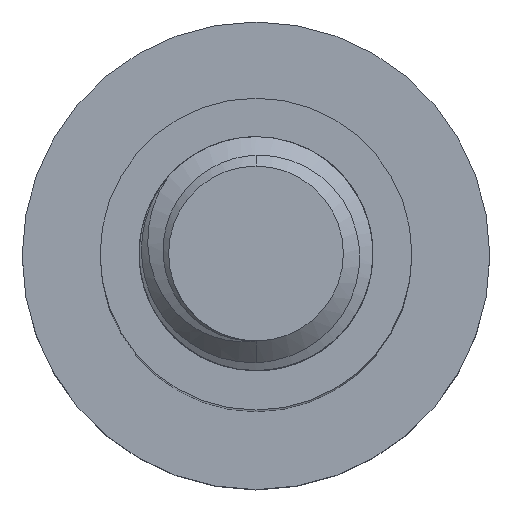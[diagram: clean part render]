
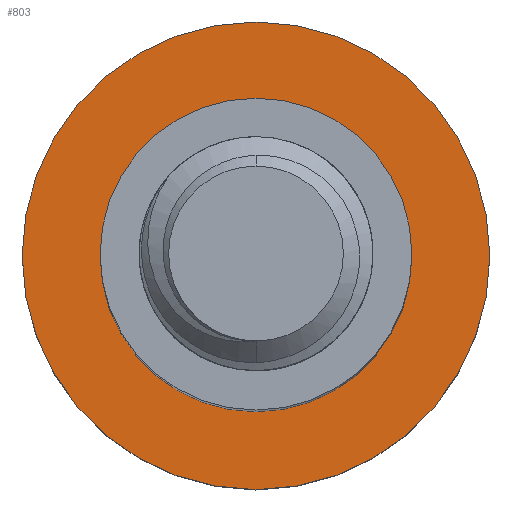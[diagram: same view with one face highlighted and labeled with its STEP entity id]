
A CAD part, top view. The second image highlights one B-rep face of the part: STEP entity #803.
In plain terms, the highlighted planar face has unit normal (0, 0, 1).
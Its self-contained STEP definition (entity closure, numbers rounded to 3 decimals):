
#111 = CARTESIAN_POINT ( 'NONE',  ( 0., 0., -50. ) ) ;
#197 = VERTEX_POINT ( 'NONE', #2546 ) ;
#214 = EDGE_LOOP ( 'NONE', ( #4832, #4511 ) ) ;
#353 = FACE_OUTER_BOUND ( 'NONE', #214, .T. ) ;
#444 = CARTESIAN_POINT ( 'NONE',  ( -8., 0., -50. ) ) ;
#803 = ADVANCED_FACE ( 'NONE', ( #1615, #353 ), #4802, .F. ) ;
#830 = DIRECTION ( 'NONE',  ( 0., 0., -1. ) ) ;
#876 = DIRECTION ( 'NONE',  ( -1., 0., 0. ) ) ;
#889 = AXIS2_PLACEMENT_3D ( 'NONE', #3643, #4753, #2006 ) ;
#1537 = EDGE_CURVE ( 'NONE', #2658, #3770, #4904, .T. ) ;
#1573 = AXIS2_PLACEMENT_3D ( 'NONE', #111, #2607, #2515 ) ;
#1615 = FACE_BOUND ( 'NONE', #4776, .T. ) ;
#2006 = DIRECTION ( 'NONE',  ( -1., 0., 0. ) ) ;
#2471 = CARTESIAN_POINT ( 'NONE',  ( 0., 0., -50. ) ) ;
#2477 = ORIENTED_EDGE ( 'NONE', *, *, #1537, .T. ) ;
#2489 = CIRCLE ( 'NONE', #1573, 8. ) ;
#2515 = DIRECTION ( 'NONE',  ( -1., 0., 0. ) ) ;
#2546 = CARTESIAN_POINT ( 'NONE',  ( 12., 0., -50. ) ) ;
#2607 = DIRECTION ( 'NONE',  ( 0., 0., -1. ) ) ;
#2651 = CIRCLE ( 'NONE', #3477, 12. ) ;
#2658 = VERTEX_POINT ( 'NONE', #3375 ) ;
#2686 = DIRECTION ( 'NONE',  ( -1., 0., 0. ) ) ;
#2784 = VERTEX_POINT ( 'NONE', #3741 ) ;
#2849 = CARTESIAN_POINT ( 'NONE',  ( 0., 0., -50. ) ) ;
#3306 = CIRCLE ( 'NONE', #3984, 12. ) ;
#3375 = CARTESIAN_POINT ( 'NONE',  ( 8., 0., -50. ) ) ;
#3477 = AXIS2_PLACEMENT_3D ( 'NONE', #2849, #4459, #3663 ) ;
#3643 = CARTESIAN_POINT ( 'NONE',  ( 0., 0., -50. ) ) ;
#3663 = DIRECTION ( 'NONE',  ( -1., 0., 0. ) ) ;
#3741 = CARTESIAN_POINT ( 'NONE',  ( -12., 0., -50. ) ) ;
#3770 = VERTEX_POINT ( 'NONE', #444 ) ;
#3803 = CARTESIAN_POINT ( 'NONE',  ( 0., 0., -50. ) ) ;
#3832 = DIRECTION ( 'NONE',  ( 0., 0., -1. ) ) ;
#3833 = ORIENTED_EDGE ( 'NONE', *, *, #4896, .T. ) ;
#3984 = AXIS2_PLACEMENT_3D ( 'NONE', #3803, #3832, #2686 ) ;
#4057 = AXIS2_PLACEMENT_3D ( 'NONE', #2471, #830, #876 ) ;
#4459 = DIRECTION ( 'NONE',  ( 0., 0., -1. ) ) ;
#4511 = ORIENTED_EDGE ( 'NONE', *, *, #4704, .F. ) ;
#4704 = EDGE_CURVE ( 'NONE', #2784, #197, #2651, .T. ) ;
#4753 = DIRECTION ( 'NONE',  ( 0., 0., -1. ) ) ;
#4776 = EDGE_LOOP ( 'NONE', ( #3833, #2477 ) ) ;
#4802 = PLANE ( 'NONE',  #4057 ) ;
#4832 = ORIENTED_EDGE ( 'NONE', *, *, #4865, .F. ) ;
#4865 = EDGE_CURVE ( 'NONE', #197, #2784, #3306, .T. ) ;
#4896 = EDGE_CURVE ( 'NONE', #3770, #2658, #2489, .T. ) ;
#4904 = CIRCLE ( 'NONE', #889, 8. ) ;
